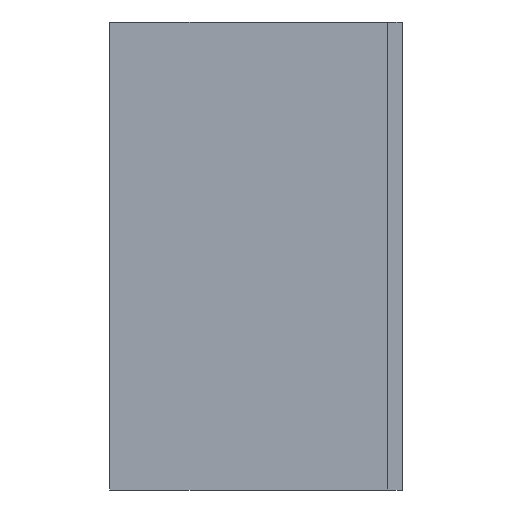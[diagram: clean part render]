
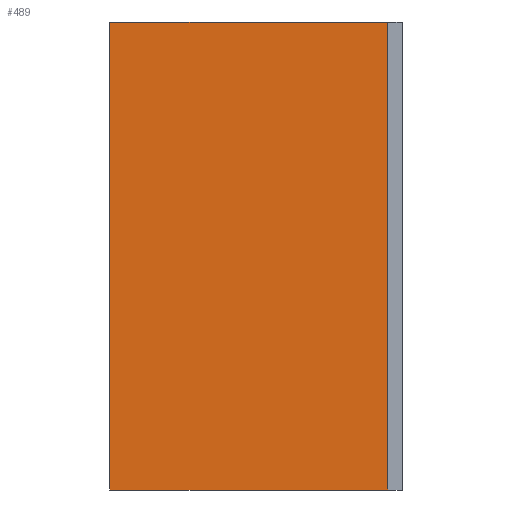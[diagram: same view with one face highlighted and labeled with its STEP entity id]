
A CAD part, left-side view. The second image highlights one B-rep face of the part: STEP entity #489.
In plain terms, the highlighted planar face has unit normal (-1, 0, 0).
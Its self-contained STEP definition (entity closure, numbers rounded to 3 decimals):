
#4 = ORIENTED_EDGE ( 'NONE', *, *, #217, .T. ) ;
#30 = CARTESIAN_POINT ( 'NONE',  ( -1., 0.05, 0.8 ) ) ;
#46 = VERTEX_POINT ( 'NONE', #466 ) ;
#70 = FACE_OUTER_BOUND ( 'NONE', #415, .T. ) ;
#72 = DIRECTION ( 'NONE',  ( 0., 0., -1. ) ) ;
#84 = LINE ( 'NONE', #107, #332 ) ;
#107 = CARTESIAN_POINT ( 'NONE',  ( -1., 4.561, -0.8 ) ) ;
#118 = ORIENTED_EDGE ( 'NONE', *, *, #701, .F. ) ;
#125 = CARTESIAN_POINT ( 'NONE',  ( -1., 4.561, 0.8 ) ) ;
#128 = DIRECTION ( 'NONE',  ( 0., 0., 1. ) ) ;
#171 = CARTESIAN_POINT ( 'NONE',  ( -1., 4.561, 0.8 ) ) ;
#184 = VERTEX_POINT ( 'NONE', #280 ) ;
#217 = EDGE_CURVE ( 'NONE', #240, #46, #653, .T. ) ;
#240 = VERTEX_POINT ( 'NONE', #272 ) ;
#271 = ORIENTED_EDGE ( 'NONE', *, *, #540, .F. ) ;
#272 = CARTESIAN_POINT ( 'NONE',  ( -1., 0.05, -0.8 ) ) ;
#280 = CARTESIAN_POINT ( 'NONE',  ( -1., 1., -0.8 ) ) ;
#303 = EDGE_CURVE ( 'NONE', #184, #240, #84, .T. ) ;
#325 = VECTOR ( 'NONE', #508, 1000. ) ;
#332 = VECTOR ( 'NONE', #613, 1000. ) ;
#404 = AXIS2_PLACEMENT_3D ( 'NONE', #125, #628, #72 ) ;
#415 = EDGE_LOOP ( 'NONE', ( #118, #688, #4, #271 ) ) ;
#421 = CARTESIAN_POINT ( 'NONE',  ( -1., 1., 0.8 ) ) ;
#466 = CARTESIAN_POINT ( 'NONE',  ( -1., 0.05, 0.8 ) ) ;
#489 = ADVANCED_FACE ( 'NONE', ( #70 ), #570, .F. ) ;
#508 = DIRECTION ( 'NONE',  ( 0., -1., 0. ) ) ;
#535 = DIRECTION ( 'NONE',  ( 0., 0., 1. ) ) ;
#540 = EDGE_CURVE ( 'NONE', #679, #46, #550, .T. ) ;
#550 = LINE ( 'NONE', #171, #325 ) ;
#570 = PLANE ( 'NONE',  #404 ) ;
#591 = VECTOR ( 'NONE', #535, 1000. ) ;
#598 = CARTESIAN_POINT ( 'NONE',  ( -1., 1., 0.8 ) ) ;
#608 = LINE ( 'NONE', #421, #591 ) ;
#613 = DIRECTION ( 'NONE',  ( 0., -1., 0. ) ) ;
#628 = DIRECTION ( 'NONE',  ( 1., 0., 0. ) ) ;
#653 = LINE ( 'NONE', #30, #654 ) ;
#654 = VECTOR ( 'NONE', #128, 1000. ) ;
#679 = VERTEX_POINT ( 'NONE', #598 ) ;
#688 = ORIENTED_EDGE ( 'NONE', *, *, #303, .T. ) ;
#701 = EDGE_CURVE ( 'NONE', #184, #679, #608, .T. ) ;
